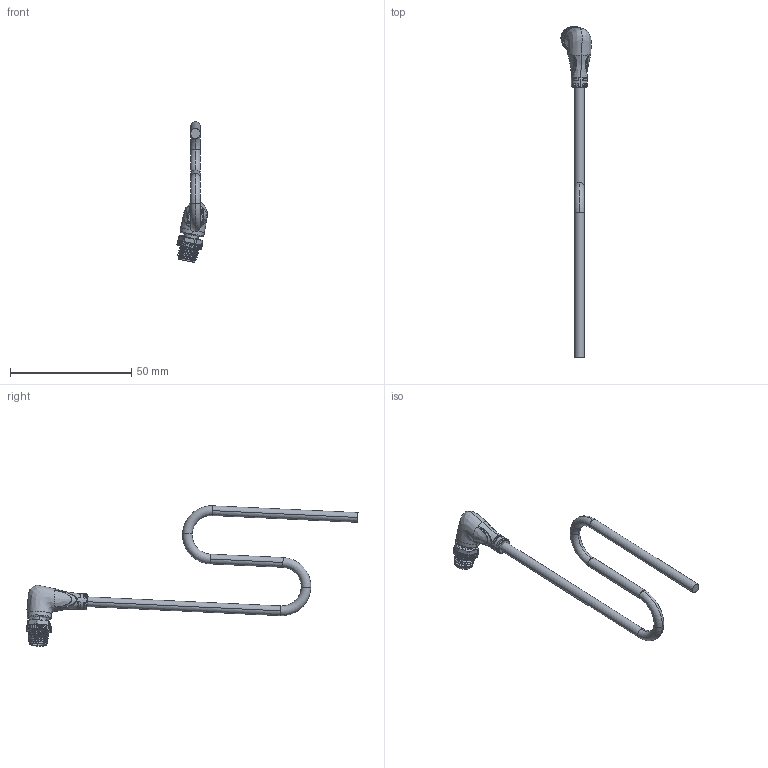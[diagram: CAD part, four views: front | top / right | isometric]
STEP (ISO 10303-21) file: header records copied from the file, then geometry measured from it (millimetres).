
FILE_DESCRIPTION (( 'STEP AP214' ), '1' );
FILE_NAME ('M8-4MVL-02Y.STEP', '2025-09-25T06:15:37', ( 'Windows User' ), ( 'P R C' ), 'SwSTEP 2.0', 'SolidWorks 2023', '' );
FILE_SCHEMA (( 'AUTOMOTIVE_DESIGN' ));
Length unit declared in the file: millimetre
Products named in the file (8): M8-4MVL-02Y; SD1100823-M8滚花螺栓（外螺纹对边9）-A0; M8 PCB （机加工）; 90°包胶; 导线_φ4.0; SD1705296-M8-4P公端插座-A0; LED; M8公端插针（机加工件）
Assembly tree (11 placements, depth 2):
  M8-4MVL-02Y
    导线_φ4.0
    90°包胶
    M8公端插针（机加工件）  x4
    SD1100823-M8滚花螺栓（外螺纹对边9）-A0
    LED  x2
    SD1705296-M8-4P公端插座-A0
    M8 PCB （机加工）
Bounding box: 12.49 x 137.12 x 57.96 mm (x, y, z)
Volume: 5303.5 mm3; surface area: 5945.7 mm2
Topology: 11 solids, 11 shells, 814 faces, 2083 edges, 1345 vertices
Faces by surface type: plane 240, cylinder 237, cone 167, bspline 147, torus 15, sphere 8
Entity records: 32844 total; most frequent: CARTESIAN_POINT 16488, ORIENTED_EDGE 3714, DIRECTION 2880, EDGE_CURVE 1857, VERTEX_POINT 1206, AXIS2_PLACEMENT_3D 1093, EDGE_LOOP 765, ADVANCED_FACE 706
